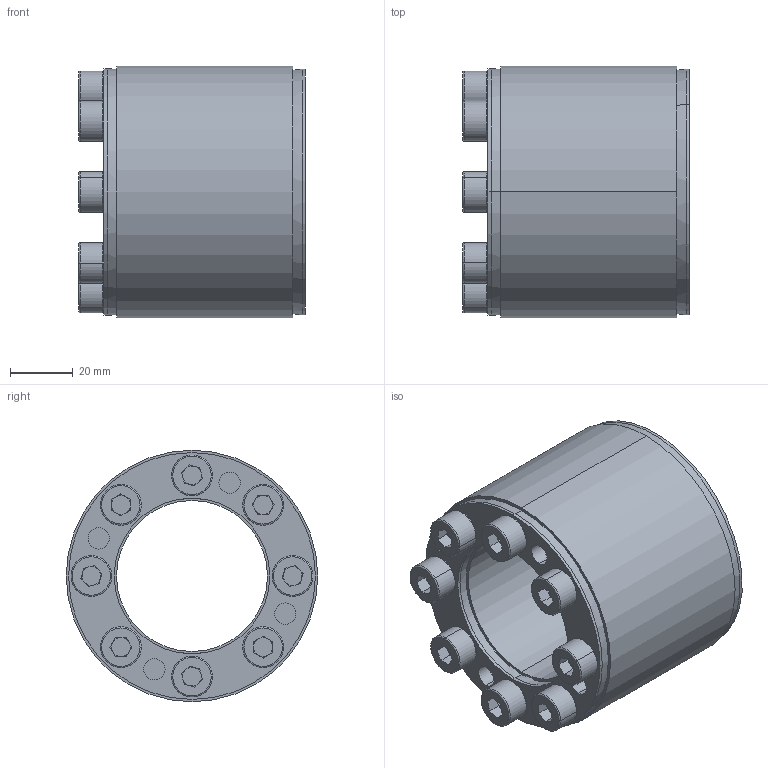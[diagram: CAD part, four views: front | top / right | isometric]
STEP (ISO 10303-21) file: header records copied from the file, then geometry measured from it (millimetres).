
FILE_DESCRIPTION (( 'STEP AP203' ), '1' );
FILE_NAME ('SAPL-D4-48-80.STEP', '2017-11-06T07:12:59', ( 'MYCOM' ), ( '' ), 'SwSTEP 2.0', 'SolidWorks 2015', '' );
FILE_SCHEMA (( 'CONFIG_CONTROL_DESIGN' ));
Length unit declared in the file: millimetre
Products named in the file (1): SAPL-D4-48-80
Bounding box: 72.02 x 80 x 80 mm (x, y, z)
Surface area: 48664.8 mm2 (no closed solid volume)
Topology: 0 solids, 20 shells, 216 faces, 548 edges, 344 vertices
Faces by surface type: plane 108, cylinder 68, torus 32, cone 8
Entity records: 6570 total; most frequent: DIRECTION 1262, CARTESIAN_POINT 1109, ORIENTED_EDGE 962, EDGE_CURVE 548, AXIS2_PLACEMENT_3D 497, VERTEX_POINT 344, CIRCLE 280, LINE 268
